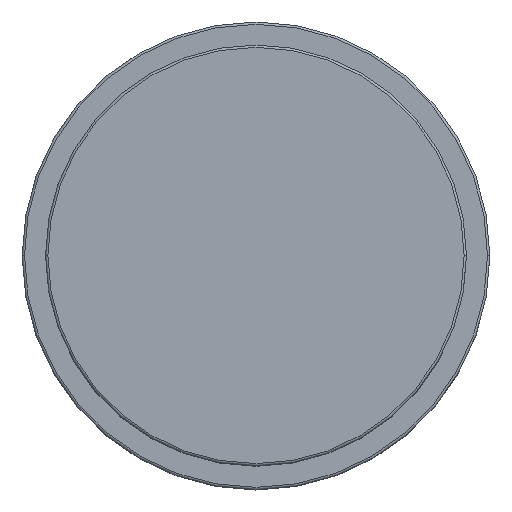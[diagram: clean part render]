
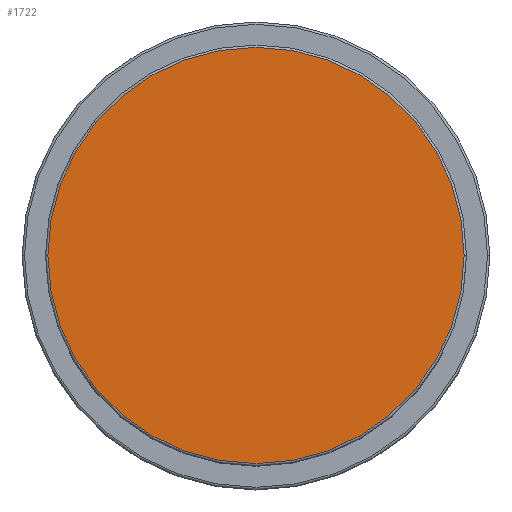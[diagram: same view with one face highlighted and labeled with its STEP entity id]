
A CAD part, top view. The second image highlights one B-rep face of the part: STEP entity #1722.
In plain terms, the highlighted planar face has unit normal (0, 0, 1).
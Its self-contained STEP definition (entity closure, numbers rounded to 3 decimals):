
#53 = AXIS2_PLACEMENT_3D ( 'NONE', #1540, #1348, #419 ) ;
#178 = AXIS2_PLACEMENT_3D ( 'NONE', #1403, #1058, #1214 ) ;
#297 = CARTESIAN_POINT ( 'NONE',  ( 44.5, 0., 62. ) ) ;
#419 = DIRECTION ( 'NONE',  ( 1., 0., 0. ) ) ;
#428 = DIRECTION ( 'NONE',  ( 0., 0., 1. ) ) ;
#544 = AXIS2_PLACEMENT_3D ( 'NONE', #1060, #428, #599 ) ;
#599 = DIRECTION ( 'NONE',  ( 1., 0., 0. ) ) ;
#635 = ORIENTED_EDGE ( 'NONE', *, *, #1228, .T. ) ;
#695 = EDGE_CURVE ( 'NONE', #1191, #1463, #1387, .T. ) ;
#818 = ORIENTED_EDGE ( 'NONE', *, *, #695, .T. ) ;
#1058 = DIRECTION ( 'NONE',  ( 0., 0., 1. ) ) ;
#1060 = CARTESIAN_POINT ( 'NONE',  ( 0., 0., 62. ) ) ;
#1137 = CARTESIAN_POINT ( 'NONE',  ( -44.5, 0., 62. ) ) ;
#1189 = EDGE_LOOP ( 'NONE', ( #818, #635 ) ) ;
#1191 = VERTEX_POINT ( 'NONE', #297 ) ;
#1214 = DIRECTION ( 'NONE',  ( 1., 0., 0. ) ) ;
#1228 = EDGE_CURVE ( 'NONE', #1463, #1191, #1796, .T. ) ;
#1348 = DIRECTION ( 'NONE',  ( 0., 0., 1. ) ) ;
#1387 = CIRCLE ( 'NONE', #53, 44.5 ) ;
#1403 = CARTESIAN_POINT ( 'NONE',  ( 0., 0., 62. ) ) ;
#1463 = VERTEX_POINT ( 'NONE', #1137 ) ;
#1540 = CARTESIAN_POINT ( 'NONE',  ( 0., 0., 62. ) ) ;
#1647 = FACE_OUTER_BOUND ( 'NONE', #1189, .T. ) ;
#1722 = ADVANCED_FACE ( 'NONE', ( #1647 ), #1861, .T. ) ;
#1796 = CIRCLE ( 'NONE', #544, 44.5 ) ;
#1861 = PLANE ( 'NONE',  #178 ) ;
